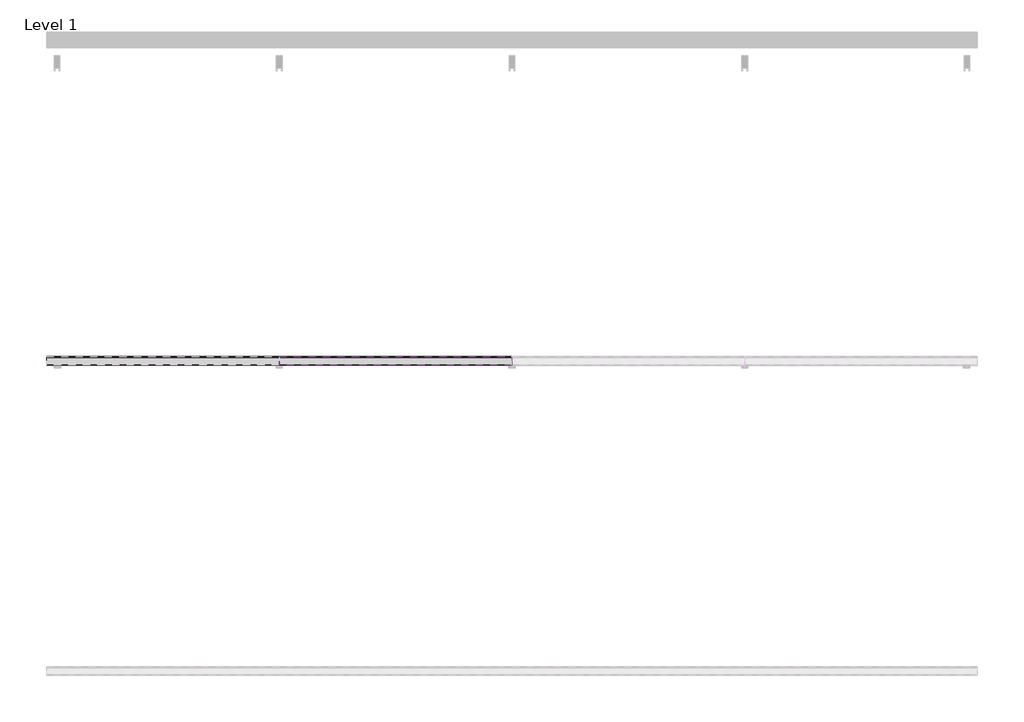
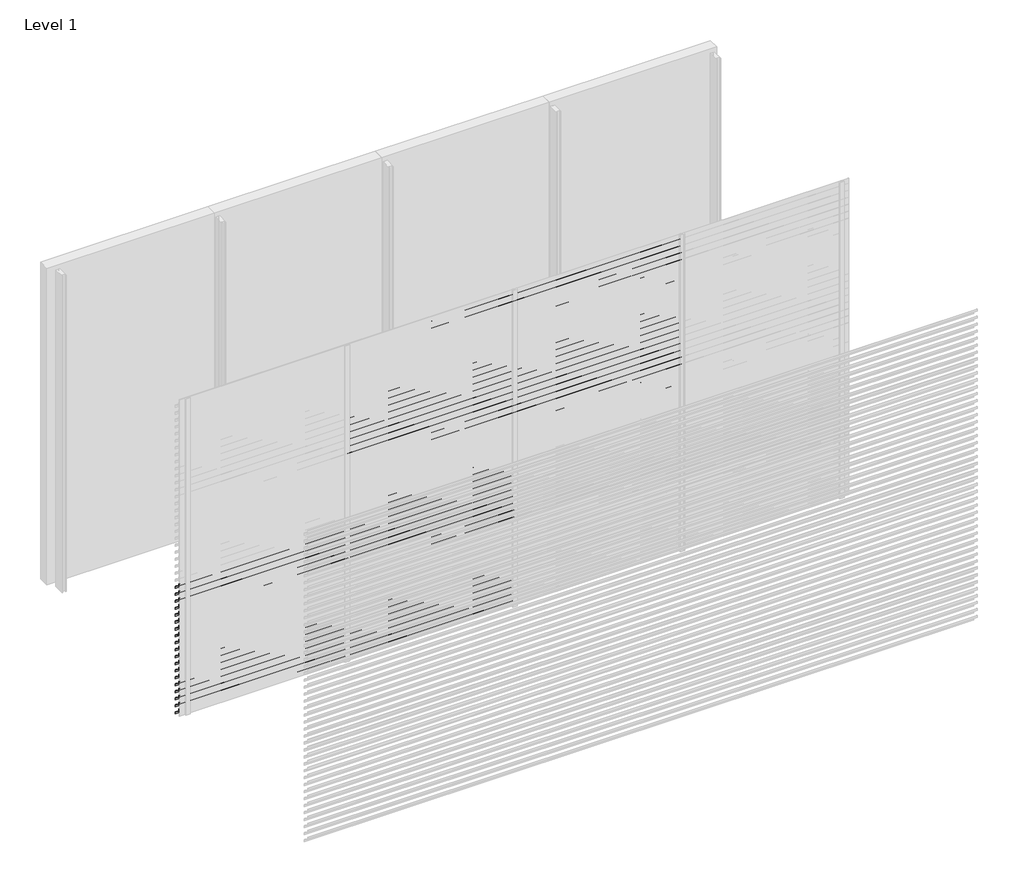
# One storey, part 14 of 25: 87 proxies.
"""IFC4 building model written with IfcOpenShell, lengths in millimetres."""

from ifc_helpers import new_model, si_unit, frame, origin, place, context, project, spatial, polyline, outline, extrude, element, save

model = new_model("IFC4")

# Units and contexts
model_context = context("Model", 3, world=origin())
ifc_project = project(units=[si_unit("LENGTHUNIT", "METRE", prefix="MILLI")], contexts=[model_context])

# Site, building, storey
site = spatial("IfcSite", under=ifc_project)
building = spatial("IfcBuilding", under=site)
storey = spatial("IfcBuildingStorey", under=building, Name="Level 1", Elevation=0.0)

# Proxies
placement = place(None, origin())
element("IfcBuildingElementProxy", 1, Name="Wall Sweeps", at=placement, inside=storey, context=model_context, shape_type="SweptSolid", body=[
    extrude(outline(polyline([(-23943.0, 1197.5), (-23943.0, 1177.5), (-23944.25, 1178.2216933), (-23944.25, 1196.7872415), (-23998.0, 1234.3158044), (-23998.0, 1254.0), (-23996.75, 1254.0), (-23996.75, 1235.0285629), (-23943.0, 1197.5)])), frame((0.0, 0.0, 0.0), z_axis=(1.0, 0.0, 0.0), x_axis=(0.0, 1.0, 0.0)), (0.0, 0.0, 1.0), 1500.0),
])
element("IfcBuildingElementProxy", 2, Name="Wall Sweeps", at=placement, inside=storey, context=model_context, shape_type="SweptSolid", body=[
    extrude(outline(polyline([(-23943.0, 1131.5), (-23943.0, 1111.5), (-23944.25, 1112.2216933), (-23944.25, 1130.7872415), (-23998.0, 1168.3158044), (-23998.0, 1188.0), (-23996.75, 1188.0), (-23996.75, 1169.0285629), (-23943.0, 1131.5)])), frame((0.0, 0.0, 0.0), z_axis=(1.0, 0.0, 0.0), x_axis=(0.0, 1.0, 0.0)), (0.0, 0.0, 1.0), 1500.0),
])
element("IfcBuildingElementProxy", 3, Name="Wall Sweeps", at=placement, inside=storey, context=model_context, shape_type="SweptSolid", body=[
    extrude(outline(polyline([(-23943.0, 1065.5), (-23943.0, 1045.5), (-23944.25, 1046.2216933), (-23944.25, 1064.7872415), (-23998.0, 1102.3158044), (-23998.0, 1122.0), (-23996.75, 1122.0), (-23996.75, 1103.0285629), (-23943.0, 1065.5)])), frame((0.0, 0.0, 0.0), z_axis=(1.0, 0.0, 0.0), x_axis=(0.0, 1.0, 0.0)), (0.0, 0.0, 1.0), 1500.0),
])
element("IfcBuildingElementProxy", 4, Name="Wall Sweeps", at=placement, inside=storey, context=model_context, shape_type="SweptSolid", body=[
    extrude(outline(polyline([(-23943.0, 999.5), (-23943.0, 979.5), (-23944.25, 980.2216933), (-23944.25, 998.7872415), (-23998.0, 1036.3158044), (-23998.0, 1056.0), (-23996.75, 1056.0), (-23996.75, 1037.0285629), (-23943.0, 999.5)])), frame((0.0, 0.0, 0.0), z_axis=(1.0, 0.0, 0.0), x_axis=(0.0, 1.0, 0.0)), (0.0, 0.0, 1.0), 1500.0),
])
element("IfcBuildingElementProxy", 5, Name="Wall Sweeps", at=placement, inside=storey, context=model_context, shape_type="SweptSolid", body=[
    extrude(outline(polyline([(-23943.0, 933.5), (-23943.0, 913.5), (-23944.25, 914.2216933), (-23944.25, 932.7872415), (-23998.0, 970.3158044), (-23998.0, 990.0), (-23996.75, 990.0), (-23996.75, 971.0285629), (-23943.0, 933.5)])), frame((0.0, 0.0, 0.0), z_axis=(1.0, 0.0, 0.0), x_axis=(0.0, 1.0, 0.0)), (0.0, 0.0, 1.0), 1500.0),
])
element("IfcBuildingElementProxy", 6, Name="Wall Sweeps", at=placement, inside=storey, context=model_context, shape_type="SweptSolid", body=[
    extrude(outline(polyline([(-23943.0, 867.5), (-23943.0, 847.5), (-23944.25, 848.2216933), (-23944.25, 866.7872415), (-23998.0, 904.3158044), (-23998.0, 924.0), (-23996.75, 924.0), (-23996.75, 905.0285629), (-23943.0, 867.5)])), frame((0.0, 0.0, 0.0), z_axis=(1.0, 0.0, 0.0), x_axis=(0.0, 1.0, 0.0)), (0.0, 0.0, 1.0), 1500.0),
])
element("IfcBuildingElementProxy", 7, Name="Wall Sweeps", at=placement, inside=storey, context=model_context, shape_type="SweptSolid", body=[
    extrude(outline(polyline([(-23943.0, 801.5), (-23943.0, 781.5), (-23944.25, 782.2216933), (-23944.25, 800.7872415), (-23998.0, 838.3158044), (-23998.0, 858.0), (-23996.75, 858.0), (-23996.75, 839.0285629), (-23943.0, 801.5)])), frame((0.0, 0.0, 0.0), z_axis=(1.0, 0.0, 0.0), x_axis=(0.0, 1.0, 0.0)), (0.0, 0.0, 1.0), 1500.0),
])
element("IfcBuildingElementProxy", 8, Name="Wall Sweeps", at=placement, inside=storey, context=model_context, shape_type="SweptSolid", body=[
    extrude(outline(polyline([(-23943.0, 735.5), (-23943.0, 715.5), (-23944.25, 716.2216933), (-23944.25, 734.7872415), (-23998.0, 772.3158044), (-23998.0, 792.0), (-23996.75, 792.0), (-23996.75, 773.0285629), (-23943.0, 735.5)])), frame((0.0, 0.0, 0.0), z_axis=(1.0, 0.0, 0.0), x_axis=(0.0, 1.0, 0.0)), (0.0, 0.0, 1.0), 1500.0),
])
element("IfcBuildingElementProxy", 9, Name="Wall Sweeps", at=placement, inside=storey, context=model_context, shape_type="SweptSolid", body=[
    extrude(outline(polyline([(-23943.0, 669.5), (-23943.0, 649.5), (-23944.25, 650.2216933), (-23944.25, 668.7872415), (-23998.0, 706.3158044), (-23998.0, 726.0), (-23996.75, 726.0), (-23996.75, 707.0285629), (-23943.0, 669.5)])), frame((0.0, 0.0, 0.0), z_axis=(1.0, 0.0, 0.0), x_axis=(0.0, 1.0, 0.0)), (0.0, 0.0, 1.0), 1500.0),
])
element("IfcBuildingElementProxy", 10, Name="Wall Sweeps", at=placement, inside=storey, context=model_context, shape_type="SweptSolid", body=[
    extrude(outline(polyline([(-23943.0, 603.5), (-23943.0, 583.5), (-23944.25, 584.2216933), (-23944.25, 602.7872415), (-23998.0, 640.3158044), (-23998.0, 660.0), (-23996.75, 660.0), (-23996.75, 641.0285629), (-23943.0, 603.5)])), frame((0.0, 0.0, 0.0), z_axis=(1.0, 0.0, 0.0), x_axis=(0.0, 1.0, 0.0)), (0.0, 0.0, 1.0), 1500.0),
])
element("IfcBuildingElementProxy", 11, Name="Wall Sweeps", at=placement, inside=storey, context=model_context, shape_type="SweptSolid", body=[
    extrude(outline(polyline([(-23943.0, 537.5), (-23943.0, 517.5), (-23944.25, 518.2216933), (-23944.25, 536.7872415), (-23998.0, 574.3158044), (-23998.0, 594.0), (-23996.75, 594.0), (-23996.75, 575.0285629), (-23943.0, 537.5)])), frame((0.0, 0.0, 0.0), z_axis=(1.0, 0.0, 0.0), x_axis=(0.0, 1.0, 0.0)), (0.0, 0.0, 1.0), 1500.0),
])
element("IfcBuildingElementProxy", 12, Name="Wall Sweeps", at=placement, inside=storey, context=model_context, shape_type="SweptSolid", body=[
    extrude(outline(polyline([(-23943.0, 471.5), (-23943.0, 451.5), (-23944.25, 452.2216933), (-23944.25, 470.7872415), (-23998.0, 508.3158044), (-23998.0, 528.0), (-23996.75, 528.0), (-23996.75, 509.0285629), (-23943.0, 471.5)])), frame((0.0, 0.0, 0.0), z_axis=(1.0, 0.0, 0.0), x_axis=(0.0, 1.0, 0.0)), (0.0, 0.0, 1.0), 1500.0),
])
element("IfcBuildingElementProxy", 13, Name="Wall Sweeps", at=placement, inside=storey, context=model_context, shape_type="SweptSolid", body=[
    extrude(outline(polyline([(-23943.0, 405.5), (-23943.0, 385.5), (-23944.25, 386.2216933), (-23944.25, 404.7872415), (-23998.0, 442.3158044), (-23998.0, 462.0), (-23996.75, 462.0), (-23996.75, 443.0285629), (-23943.0, 405.5)])), frame((0.0, 0.0, 0.0), z_axis=(1.0, 0.0, 0.0), x_axis=(0.0, 1.0, 0.0)), (0.0, 0.0, 1.0), 1500.0),
])
element("IfcBuildingElementProxy", 14, Name="Wall Sweeps", at=placement, inside=storey, context=model_context, shape_type="SweptSolid", body=[
    extrude(outline(polyline([(-23943.0, 339.5), (-23943.0, 319.5), (-23944.25, 320.2216933), (-23944.25, 338.7872415), (-23998.0, 376.3158044), (-23998.0, 396.0), (-23996.75, 396.0), (-23996.75, 377.0285629), (-23943.0, 339.5)])), frame((0.0, 0.0, 0.0), z_axis=(1.0, 0.0, 0.0), x_axis=(0.0, 1.0, 0.0)), (0.0, 0.0, 1.0), 1500.0),
])
element("IfcBuildingElementProxy", 15, Name="Wall Sweeps", at=placement, inside=storey, context=model_context, shape_type="SweptSolid", body=[
    extrude(outline(polyline([(-23943.0, 273.5), (-23943.0, 253.5), (-23944.25, 254.2216933), (-23944.25, 272.7872415), (-23998.0, 310.3158044), (-23998.0, 330.0), (-23996.75, 330.0), (-23996.75, 311.0285629), (-23943.0, 273.5)])), frame((0.0, 0.0, 0.0), z_axis=(1.0, 0.0, 0.0), x_axis=(0.0, 1.0, 0.0)), (0.0, 0.0, 1.0), 1500.0),
])
element("IfcBuildingElementProxy", 16, Name="Wall Sweeps", at=placement, inside=storey, context=model_context, shape_type="SweptSolid", body=[
    extrude(outline(polyline([(-23943.0, 207.5), (-23943.0, 187.5), (-23944.25, 188.2216933), (-23944.25, 206.7872415), (-23998.0, 244.3158044), (-23998.0, 264.0), (-23996.75, 264.0), (-23996.75, 245.0285629), (-23943.0, 207.5)])), frame((0.0, 0.0, 0.0), z_axis=(1.0, 0.0, 0.0), x_axis=(0.0, 1.0, 0.0)), (0.0, 0.0, 1.0), 1500.0),
])
element("IfcBuildingElementProxy", 17, Name="Wall Sweeps", at=placement, inside=storey, context=model_context, shape_type="SweptSolid", body=[
    extrude(outline(polyline([(-23943.0, 141.5), (-23943.0, 121.5), (-23944.25, 122.2216933), (-23944.25, 140.7872415), (-23998.0, 178.3158044), (-23998.0, 198.0), (-23996.75, 198.0), (-23996.75, 179.0285629), (-23943.0, 141.5)])), frame((0.0, 0.0, 0.0), z_axis=(1.0, 0.0, 0.0), x_axis=(0.0, 1.0, 0.0)), (0.0, 0.0, 1.0), 1500.0),
])
element("IfcBuildingElementProxy", 18, Name="Wall Sweeps", at=placement, inside=storey, context=model_context, shape_type="SweptSolid", body=[
    extrude(outline(polyline([(-23943.0, 75.5), (-23943.0, 55.5), (-23944.25, 56.2216933), (-23944.25, 74.7872415), (-23998.0, 112.3158044), (-23998.0, 132.0), (-23996.75, 132.0), (-23996.75, 113.0285629), (-23943.0, 75.5)])), frame((0.0, 0.0, 0.0), z_axis=(1.0, 0.0, 0.0), x_axis=(0.0, 1.0, 0.0)), (0.0, 0.0, 1.0), 1500.0),
])
element("IfcBuildingElementProxy", 19, Name="Wall Sweeps", at=placement, inside=storey, context=model_context, shape_type="SweptSolid", body=[
    extrude(outline(polyline([(-23943.0, 9.5), (-23943.0, -10.5), (-23944.25, -9.7783067), (-23944.25, 8.7872415), (-23998.0, 46.3158044), (-23998.0, 66.0), (-23996.75, 66.0), (-23996.75, 47.0285629), (-23943.0, 9.5)])), frame((0.0, 0.0, 0.0), z_axis=(1.0, 0.0, 0.0), x_axis=(0.0, 1.0, 0.0)), (0.0, 0.0, 1.0), 1500.0),
])
element("IfcBuildingElementProxy", 20, Name="Wall Sweeps", at=placement, inside=storey, context=model_context, shape_type="SweptSolid", body=[
    extrude(outline(polyline([(-23943.0, 2913.5), (-23943.0, 2893.5), (-23944.25, 2894.2216933), (-23944.25, 2912.7872415), (-23998.0, 2950.3158044), (-23998.0, 2970.0), (-23996.75, 2970.0), (-23996.75, 2951.0285629), (-23943.0, 2913.5)])), frame((1500.0, 0.0, 0.0), z_axis=(1.0, 0.0, 0.0), x_axis=(0.0, 1.0, 0.0)), (0.0, 0.0, 1.0), 1500.0),
])
element("IfcBuildingElementProxy", 21, Name="Wall Sweeps", at=placement, inside=storey, context=model_context, shape_type="SweptSolid", body=[
    extrude(outline(polyline([(-23943.0, 2847.5), (-23943.0, 2827.5), (-23944.25, 2828.2216933), (-23944.25, 2846.7872415), (-23998.0, 2884.3158044), (-23998.0, 2904.0), (-23996.75, 2904.0), (-23996.75, 2885.0285629), (-23943.0, 2847.5)])), frame((1500.0, 0.0, 0.0), z_axis=(1.0, 0.0, 0.0), x_axis=(0.0, 1.0, 0.0)), (0.0, 0.0, 1.0), 1500.0),
])
element("IfcBuildingElementProxy", 22, Name="Wall Sweeps", at=placement, inside=storey, context=model_context, shape_type="SweptSolid", body=[
    extrude(outline(polyline([(-23943.0, 2781.5), (-23943.0, 2761.5), (-23944.25, 2762.2216933), (-23944.25, 2780.7872415), (-23998.0, 2818.3158044), (-23998.0, 2838.0), (-23996.75, 2838.0), (-23996.75, 2819.0285629), (-23943.0, 2781.5)])), frame((1500.0, 0.0, 0.0), z_axis=(1.0, 0.0, 0.0), x_axis=(0.0, 1.0, 0.0)), (0.0, 0.0, 1.0), 1500.0),
])
element("IfcBuildingElementProxy", 23, Name="Wall Sweeps", at=placement, inside=storey, context=model_context, shape_type="SweptSolid", body=[
    extrude(outline(polyline([(-23943.0, 2715.5), (-23943.0, 2695.5), (-23944.25, 2696.2216933), (-23944.25, 2714.7872415), (-23998.0, 2752.3158044), (-23998.0, 2772.0), (-23996.75, 2772.0), (-23996.75, 2753.0285629), (-23943.0, 2715.5)])), frame((1500.0, 0.0, 0.0), z_axis=(1.0, 0.0, 0.0), x_axis=(0.0, 1.0, 0.0)), (0.0, 0.0, 1.0), 1500.0),
])
element("IfcBuildingElementProxy", 24, Name="Wall Sweeps", at=placement, inside=storey, context=model_context, shape_type="SweptSolid", body=[
    extrude(outline(polyline([(-23943.0, 2649.5), (-23943.0, 2629.5), (-23944.25, 2630.2216933), (-23944.25, 2648.7872415), (-23998.0, 2686.3158044), (-23998.0, 2706.0), (-23996.75, 2706.0), (-23996.75, 2687.0285629), (-23943.0, 2649.5)])), frame((1500.0, 0.0, 0.0), z_axis=(1.0, 0.0, 0.0), x_axis=(0.0, 1.0, 0.0)), (0.0, 0.0, 1.0), 1500.0),
])
element("IfcBuildingElementProxy", 25, Name="Wall Sweeps", at=placement, inside=storey, context=model_context, shape_type="SweptSolid", body=[
    extrude(outline(polyline([(-23943.0, 2583.5), (-23943.0, 2563.5), (-23944.25, 2564.2216933), (-23944.25, 2582.7872415), (-23998.0, 2620.3158044), (-23998.0, 2640.0), (-23996.75, 2640.0), (-23996.75, 2621.0285629), (-23943.0, 2583.5)])), frame((1500.0, 0.0, 0.0), z_axis=(1.0, 0.0, 0.0), x_axis=(0.0, 1.0, 0.0)), (0.0, 0.0, 1.0), 1500.0),
])
element("IfcBuildingElementProxy", 26, Name="Wall Sweeps", at=placement, inside=storey, context=model_context, shape_type="SweptSolid", body=[
    extrude(outline(polyline([(-23943.0, 2517.5), (-23943.0, 2497.5), (-23944.25, 2498.2216933), (-23944.25, 2516.7872415), (-23998.0, 2554.3158044), (-23998.0, 2574.0), (-23996.75, 2574.0), (-23996.75, 2555.0285629), (-23943.0, 2517.5)])), frame((1500.0, 0.0, 0.0), z_axis=(1.0, 0.0, 0.0), x_axis=(0.0, 1.0, 0.0)), (0.0, 0.0, 1.0), 1500.0),
])
element("IfcBuildingElementProxy", 27, Name="Wall Sweeps", at=placement, inside=storey, context=model_context, shape_type="SweptSolid", body=[
    extrude(outline(polyline([(-23943.0, 2451.5), (-23943.0, 2431.5), (-23944.25, 2432.2216933), (-23944.25, 2450.7872415), (-23998.0, 2488.3158044), (-23998.0, 2508.0), (-23996.75, 2508.0), (-23996.75, 2489.0285629), (-23943.0, 2451.5)])), frame((1500.0, 0.0, 0.0), z_axis=(1.0, 0.0, 0.0), x_axis=(0.0, 1.0, 0.0)), (0.0, 0.0, 1.0), 1500.0),
])
element("IfcBuildingElementProxy", 28, Name="Wall Sweeps", at=placement, inside=storey, context=model_context, shape_type="SweptSolid", body=[
    extrude(outline(polyline([(-23943.0, 2385.5), (-23943.0, 2365.5), (-23944.25, 2366.2216933), (-23944.25, 2384.7872415), (-23998.0, 2422.3158044), (-23998.0, 2442.0), (-23996.75, 2442.0), (-23996.75, 2423.0285629), (-23943.0, 2385.5)])), frame((1500.0, 0.0, 0.0), z_axis=(1.0, 0.0, 0.0), x_axis=(0.0, 1.0, 0.0)), (0.0, 0.0, 1.0), 1500.0),
])
element("IfcBuildingElementProxy", 29, Name="Wall Sweeps", at=placement, inside=storey, context=model_context, shape_type="SweptSolid", body=[
    extrude(outline(polyline([(-23943.0, 2319.5), (-23943.0, 2299.5), (-23944.25, 2300.2216933), (-23944.25, 2318.7872415), (-23998.0, 2356.3158044), (-23998.0, 2376.0), (-23996.75, 2376.0), (-23996.75, 2357.0285629), (-23943.0, 2319.5)])), frame((1500.0, 0.0, 0.0), z_axis=(1.0, 0.0, 0.0), x_axis=(0.0, 1.0, 0.0)), (0.0, 0.0, 1.0), 1500.0),
])
element("IfcBuildingElementProxy", 30, Name="Wall Sweeps", at=placement, inside=storey, context=model_context, shape_type="SweptSolid", body=[
    extrude(outline(polyline([(-23943.0, 2253.5), (-23943.0, 2233.5), (-23944.25, 2234.2216933), (-23944.25, 2252.7872415), (-23998.0, 2290.3158044), (-23998.0, 2310.0), (-23996.75, 2310.0), (-23996.75, 2291.0285629), (-23943.0, 2253.5)])), frame((1500.0, 0.0, 0.0), z_axis=(1.0, 0.0, 0.0), x_axis=(0.0, 1.0, 0.0)), (0.0, 0.0, 1.0), 1500.0),
])
element("IfcBuildingElementProxy", 31, Name="Wall Sweeps", at=placement, inside=storey, context=model_context, shape_type="SweptSolid", body=[
    extrude(outline(polyline([(-23943.0, 2187.5), (-23943.0, 2167.5), (-23944.25, 2168.2216933), (-23944.25, 2186.7872415), (-23998.0, 2224.3158044), (-23998.0, 2244.0), (-23996.75, 2244.0), (-23996.75, 2225.0285629), (-23943.0, 2187.5)])), frame((1500.0, 0.0, 0.0), z_axis=(1.0, 0.0, 0.0), x_axis=(0.0, 1.0, 0.0)), (0.0, 0.0, 1.0), 1500.0),
])
element("IfcBuildingElementProxy", 32, Name="Wall Sweeps", at=placement, inside=storey, context=model_context, shape_type="SweptSolid", body=[
    extrude(outline(polyline([(-23943.0, 2121.5), (-23943.0, 2101.5), (-23944.25, 2102.2216933), (-23944.25, 2120.7872415), (-23998.0, 2158.3158044), (-23998.0, 2178.0), (-23996.75, 2178.0), (-23996.75, 2159.0285629), (-23943.0, 2121.5)])), frame((1500.0, 0.0, 0.0), z_axis=(1.0, 0.0, 0.0), x_axis=(0.0, 1.0, 0.0)), (0.0, 0.0, 1.0), 1500.0),
])
element("IfcBuildingElementProxy", 33, Name="Wall Sweeps", at=placement, inside=storey, context=model_context, shape_type="SweptSolid", body=[
    extrude(outline(polyline([(-23943.0, 2055.5), (-23943.0, 2035.5), (-23944.25, 2036.2216933), (-23944.25, 2054.7872415), (-23998.0, 2092.3158044), (-23998.0, 2112.0), (-23996.75, 2112.0), (-23996.75, 2093.0285629), (-23943.0, 2055.5)])), frame((1500.0, 0.0, 0.0), z_axis=(1.0, 0.0, 0.0), x_axis=(0.0, 1.0, 0.0)), (0.0, 0.0, 1.0), 1500.0),
])
element("IfcBuildingElementProxy", 34, Name="Wall Sweeps", at=placement, inside=storey, context=model_context, shape_type="SweptSolid", body=[
    extrude(outline(polyline([(-23943.0, 1989.5), (-23943.0, 1969.5), (-23944.25, 1970.2216933), (-23944.25, 1988.7872415), (-23998.0, 2026.3158044), (-23998.0, 2046.0), (-23996.75, 2046.0), (-23996.75, 2027.0285629), (-23943.0, 1989.5)])), frame((1500.0, 0.0, 0.0), z_axis=(1.0, 0.0, 0.0), x_axis=(0.0, 1.0, 0.0)), (0.0, 0.0, 1.0), 1500.0),
])
element("IfcBuildingElementProxy", 35, Name="Wall Sweeps", at=placement, inside=storey, context=model_context, shape_type="SweptSolid", body=[
    extrude(outline(polyline([(-23943.0, 1923.5), (-23943.0, 1903.5), (-23944.25, 1904.2216933), (-23944.25, 1922.7872415), (-23998.0, 1960.3158044), (-23998.0, 1980.0), (-23996.75, 1980.0), (-23996.75, 1961.0285629), (-23943.0, 1923.5)])), frame((1500.0, 0.0, 0.0), z_axis=(1.0, 0.0, 0.0), x_axis=(0.0, 1.0, 0.0)), (0.0, 0.0, 1.0), 1500.0),
])
element("IfcBuildingElementProxy", 36, Name="Wall Sweeps", at=placement, inside=storey, context=model_context, shape_type="SweptSolid", body=[
    extrude(outline(polyline([(-23943.0, 1857.5), (-23943.0, 1837.5), (-23944.25, 1838.2216933), (-23944.25, 1856.7872415), (-23998.0, 1894.3158044), (-23998.0, 1914.0), (-23996.75, 1914.0), (-23996.75, 1895.0285629), (-23943.0, 1857.5)])), frame((1500.0, 0.0, 0.0), z_axis=(1.0, 0.0, 0.0), x_axis=(0.0, 1.0, 0.0)), (0.0, 0.0, 1.0), 1500.0),
])
element("IfcBuildingElementProxy", 37, Name="Wall Sweeps", at=placement, inside=storey, context=model_context, shape_type="SweptSolid", body=[
    extrude(outline(polyline([(-23943.0, 1791.5), (-23943.0, 1771.5), (-23944.25, 1772.2216933), (-23944.25, 1790.7872415), (-23998.0, 1828.3158044), (-23998.0, 1848.0), (-23996.75, 1848.0), (-23996.75, 1829.0285629), (-23943.0, 1791.5)])), frame((1500.0, 0.0, 0.0), z_axis=(1.0, 0.0, 0.0), x_axis=(0.0, 1.0, 0.0)), (0.0, 0.0, 1.0), 1500.0),
])
element("IfcBuildingElementProxy", 38, Name="Wall Sweeps", at=placement, inside=storey, context=model_context, shape_type="SweptSolid", body=[
    extrude(outline(polyline([(-23943.0, 1725.5), (-23943.0, 1705.5), (-23944.25, 1706.2216933), (-23944.25, 1724.7872415), (-23998.0, 1762.3158044), (-23998.0, 1782.0), (-23996.75, 1782.0), (-23996.75, 1763.0285629), (-23943.0, 1725.5)])), frame((1500.0, 0.0, 0.0), z_axis=(1.0, 0.0, 0.0), x_axis=(0.0, 1.0, 0.0)), (0.0, 0.0, 1.0), 1500.0),
])
element("IfcBuildingElementProxy", 39, Name="Wall Sweeps", at=placement, inside=storey, context=model_context, shape_type="SweptSolid", body=[
    extrude(outline(polyline([(-23943.0, 1659.5), (-23943.0, 1639.5), (-23944.25, 1640.2216933), (-23944.25, 1658.7872415), (-23998.0, 1696.3158044), (-23998.0, 1716.0), (-23996.75, 1716.0), (-23996.75, 1697.0285629), (-23943.0, 1659.5)])), frame((1500.0, 0.0, 0.0), z_axis=(1.0, 0.0, 0.0), x_axis=(0.0, 1.0, 0.0)), (0.0, 0.0, 1.0), 1500.0),
])
element("IfcBuildingElementProxy", 40, Name="Wall Sweeps", at=placement, inside=storey, context=model_context, shape_type="SweptSolid", body=[
    extrude(outline(polyline([(-23943.0, 1593.5), (-23943.0, 1573.5), (-23944.25, 1574.2216933), (-23944.25, 1592.7872415), (-23998.0, 1630.3158044), (-23998.0, 1650.0), (-23996.75, 1650.0), (-23996.75, 1631.0285629), (-23943.0, 1593.5)])), frame((1500.0, 0.0, 0.0), z_axis=(1.0, 0.0, 0.0), x_axis=(0.0, 1.0, 0.0)), (0.0, 0.0, 1.0), 1500.0),
])
element("IfcBuildingElementProxy", 41, Name="Wall Sweeps", at=placement, inside=storey, context=model_context, shape_type="SweptSolid", body=[
    extrude(outline(polyline([(-23943.0, 1527.5), (-23943.0, 1507.5), (-23944.25, 1508.2216933), (-23944.25, 1526.7872415), (-23998.0, 1564.3158044), (-23998.0, 1584.0), (-23996.75, 1584.0), (-23996.75, 1565.0285629), (-23943.0, 1527.5)])), frame((1500.0, 0.0, 0.0), z_axis=(1.0, 0.0, 0.0), x_axis=(0.0, 1.0, 0.0)), (0.0, 0.0, 1.0), 1500.0),
])
element("IfcBuildingElementProxy", 42, Name="Wall Sweeps", at=placement, inside=storey, context=model_context, shape_type="SweptSolid", body=[
    extrude(outline(polyline([(-23943.0, 1461.5), (-23943.0, 1441.5), (-23944.25, 1442.2216933), (-23944.25, 1460.7872415), (-23998.0, 1498.3158044), (-23998.0, 1518.0), (-23996.75, 1518.0), (-23996.75, 1499.0285629), (-23943.0, 1461.5)])), frame((1500.0, 0.0, 0.0), z_axis=(1.0, 0.0, 0.0), x_axis=(0.0, 1.0, 0.0)), (0.0, 0.0, 1.0), 1500.0),
])
element("IfcBuildingElementProxy", 43, Name="Wall Sweeps", at=placement, inside=storey, context=model_context, shape_type="SweptSolid", body=[
    extrude(outline(polyline([(-23943.0, 1395.5), (-23943.0, 1375.5), (-23944.25, 1376.2216933), (-23944.25, 1394.7872415), (-23998.0, 1432.3158044), (-23998.0, 1452.0), (-23996.75, 1452.0), (-23996.75, 1433.0285629), (-23943.0, 1395.5)])), frame((1500.0, 0.0, 0.0), z_axis=(1.0, 0.0, 0.0), x_axis=(0.0, 1.0, 0.0)), (0.0, 0.0, 1.0), 1500.0),
])
element("IfcBuildingElementProxy", 44, Name="Wall Sweeps", at=placement, inside=storey, context=model_context, shape_type="SweptSolid", body=[
    extrude(outline(polyline([(-23943.0, 1329.5), (-23943.0, 1309.5), (-23944.25, 1310.2216933), (-23944.25, 1328.7872415), (-23998.0, 1366.3158044), (-23998.0, 1386.0), (-23996.75, 1386.0), (-23996.75, 1367.0285629), (-23943.0, 1329.5)])), frame((1500.0, 0.0, 0.0), z_axis=(1.0, 0.0, 0.0), x_axis=(0.0, 1.0, 0.0)), (0.0, 0.0, 1.0), 1500.0),
])
element("IfcBuildingElementProxy", 45, Name="Wall Sweeps", at=placement, inside=storey, context=model_context, shape_type="SweptSolid", body=[
    extrude(outline(polyline([(-23943.0, 1263.5), (-23943.0, 1243.5), (-23944.25, 1244.2216933), (-23944.25, 1262.7872415), (-23998.0, 1300.3158044), (-23998.0, 1320.0), (-23996.75, 1320.0), (-23996.75, 1301.0285629), (-23943.0, 1263.5)])), frame((1500.0, 0.0, 0.0), z_axis=(1.0, 0.0, 0.0), x_axis=(0.0, 1.0, 0.0)), (0.0, 0.0, 1.0), 1500.0),
])
element("IfcBuildingElementProxy", 46, Name="Wall Sweeps", at=placement, inside=storey, context=model_context, shape_type="SweptSolid", body=[
    extrude(outline(polyline([(-23943.0, 1197.5), (-23943.0, 1177.5), (-23944.25, 1178.2216933), (-23944.25, 1196.7872415), (-23998.0, 1234.3158044), (-23998.0, 1254.0), (-23996.75, 1254.0), (-23996.75, 1235.0285629), (-23943.0, 1197.5)])), frame((1500.0, 0.0, 0.0), z_axis=(1.0, 0.0, 0.0), x_axis=(0.0, 1.0, 0.0)), (0.0, 0.0, 1.0), 1500.0),
])
element("IfcBuildingElementProxy", 47, Name="Wall Sweeps", at=placement, inside=storey, context=model_context, shape_type="SweptSolid", body=[
    extrude(outline(polyline([(-23943.0, 1131.5), (-23943.0, 1111.5), (-23944.25, 1112.2216933), (-23944.25, 1130.7872415), (-23998.0, 1168.3158044), (-23998.0, 1188.0), (-23996.75, 1188.0), (-23996.75, 1169.0285629), (-23943.0, 1131.5)])), frame((1500.0, 0.0, 0.0), z_axis=(1.0, 0.0, 0.0), x_axis=(0.0, 1.0, 0.0)), (0.0, 0.0, 1.0), 1500.0),
])
element("IfcBuildingElementProxy", 48, Name="Wall Sweeps", at=placement, inside=storey, context=model_context, shape_type="SweptSolid", body=[
    extrude(outline(polyline([(-23943.0, 1065.5), (-23943.0, 1045.5), (-23944.25, 1046.2216933), (-23944.25, 1064.7872415), (-23998.0, 1102.3158044), (-23998.0, 1122.0), (-23996.75, 1122.0), (-23996.75, 1103.0285629), (-23943.0, 1065.5)])), frame((1500.0, 0.0, 0.0), z_axis=(1.0, 0.0, 0.0), x_axis=(0.0, 1.0, 0.0)), (0.0, 0.0, 1.0), 1500.0),
])
element("IfcBuildingElementProxy", 49, Name="Wall Sweeps", at=placement, inside=storey, context=model_context, shape_type="SweptSolid", body=[
    extrude(outline(polyline([(-23943.0, 999.5), (-23943.0, 979.5), (-23944.25, 980.2216933), (-23944.25, 998.7872415), (-23998.0, 1036.3158044), (-23998.0, 1056.0), (-23996.75, 1056.0), (-23996.75, 1037.0285629), (-23943.0, 999.5)])), frame((1500.0, 0.0, 0.0), z_axis=(1.0, 0.0, 0.0), x_axis=(0.0, 1.0, 0.0)), (0.0, 0.0, 1.0), 1500.0),
])
element("IfcBuildingElementProxy", 50, Name="Wall Sweeps", at=placement, inside=storey, context=model_context, shape_type="SweptSolid", body=[
    extrude(outline(polyline([(-23943.0, 933.5), (-23943.0, 913.5), (-23944.25, 914.2216933), (-23944.25, 932.7872415), (-23998.0, 970.3158044), (-23998.0, 990.0), (-23996.75, 990.0), (-23996.75, 971.0285629), (-23943.0, 933.5)])), frame((1500.0, 0.0, 0.0), z_axis=(1.0, 0.0, 0.0), x_axis=(0.0, 1.0, 0.0)), (0.0, 0.0, 1.0), 1500.0),
])
element("IfcBuildingElementProxy", 51, Name="Wall Sweeps", at=placement, inside=storey, context=model_context, shape_type="SweptSolid", body=[
    extrude(outline(polyline([(-23943.0, 867.5), (-23943.0, 847.5), (-23944.25, 848.2216933), (-23944.25, 866.7872415), (-23998.0, 904.3158044), (-23998.0, 924.0), (-23996.75, 924.0), (-23996.75, 905.0285629), (-23943.0, 867.5)])), frame((1500.0, 0.0, 0.0), z_axis=(1.0, 0.0, 0.0), x_axis=(0.0, 1.0, 0.0)), (0.0, 0.0, 1.0), 1500.0),
])
element("IfcBuildingElementProxy", 52, Name="Wall Sweeps", at=placement, inside=storey, context=model_context, shape_type="SweptSolid", body=[
    extrude(outline(polyline([(-23943.0, 801.5), (-23943.0, 781.5), (-23944.25, 782.2216933), (-23944.25, 800.7872415), (-23998.0, 838.3158044), (-23998.0, 858.0), (-23996.75, 858.0), (-23996.75, 839.0285629), (-23943.0, 801.5)])), frame((1500.0, 0.0, 0.0), z_axis=(1.0, 0.0, 0.0), x_axis=(0.0, 1.0, 0.0)), (0.0, 0.0, 1.0), 1500.0),
])
element("IfcBuildingElementProxy", 53, Name="Wall Sweeps", at=placement, inside=storey, context=model_context, shape_type="SweptSolid", body=[
    extrude(outline(polyline([(-23943.0, 735.5), (-23943.0, 715.5), (-23944.25, 716.2216933), (-23944.25, 734.7872415), (-23998.0, 772.3158044), (-23998.0, 792.0), (-23996.75, 792.0), (-23996.75, 773.0285629), (-23943.0, 735.5)])), frame((1500.0, 0.0, 0.0), z_axis=(1.0, 0.0, 0.0), x_axis=(0.0, 1.0, 0.0)), (0.0, 0.0, 1.0), 1500.0),
])
element("IfcBuildingElementProxy", 54, Name="Wall Sweeps", at=placement, inside=storey, context=model_context, shape_type="SweptSolid", body=[
    extrude(outline(polyline([(-23943.0, 669.5), (-23943.0, 649.5), (-23944.25, 650.2216933), (-23944.25, 668.7872415), (-23998.0, 706.3158044), (-23998.0, 726.0), (-23996.75, 726.0), (-23996.75, 707.0285629), (-23943.0, 669.5)])), frame((1500.0, 0.0, 0.0), z_axis=(1.0, 0.0, 0.0), x_axis=(0.0, 1.0, 0.0)), (0.0, 0.0, 1.0), 1500.0),
])
element("IfcBuildingElementProxy", 55, Name="Wall Sweeps", at=placement, inside=storey, context=model_context, shape_type="SweptSolid", body=[
    extrude(outline(polyline([(-23943.0, 603.5), (-23943.0, 583.5), (-23944.25, 584.2216933), (-23944.25, 602.7872415), (-23998.0, 640.3158044), (-23998.0, 660.0), (-23996.75, 660.0), (-23996.75, 641.0285629), (-23943.0, 603.5)])), frame((1500.0, 0.0, 0.0), z_axis=(1.0, 0.0, 0.0), x_axis=(0.0, 1.0, 0.0)), (0.0, 0.0, 1.0), 1500.0),
])
element("IfcBuildingElementProxy", 56, Name="Wall Sweeps", at=placement, inside=storey, context=model_context, shape_type="SweptSolid", body=[
    extrude(outline(polyline([(-23943.0, 537.5), (-23943.0, 517.5), (-23944.25, 518.2216933), (-23944.25, 536.7872415), (-23998.0, 574.3158044), (-23998.0, 594.0), (-23996.75, 594.0), (-23996.75, 575.0285629), (-23943.0, 537.5)])), frame((1500.0, 0.0, 0.0), z_axis=(1.0, 0.0, 0.0), x_axis=(0.0, 1.0, 0.0)), (0.0, 0.0, 1.0), 1500.0),
])
element("IfcBuildingElementProxy", 57, Name="Wall Sweeps", at=placement, inside=storey, context=model_context, shape_type="SweptSolid", body=[
    extrude(outline(polyline([(-23943.0, 471.5), (-23943.0, 451.5), (-23944.25, 452.2216933), (-23944.25, 470.7872415), (-23998.0, 508.3158044), (-23998.0, 528.0), (-23996.75, 528.0), (-23996.75, 509.0285629), (-23943.0, 471.5)])), frame((1500.0, 0.0, 0.0), z_axis=(1.0, 0.0, 0.0), x_axis=(0.0, 1.0, 0.0)), (0.0, 0.0, 1.0), 1500.0),
])
element("IfcBuildingElementProxy", 58, Name="Wall Sweeps", at=placement, inside=storey, context=model_context, shape_type="SweptSolid", body=[
    extrude(outline(polyline([(-23943.0, 405.5), (-23943.0, 385.5), (-23944.25, 386.2216933), (-23944.25, 404.7872415), (-23998.0, 442.3158044), (-23998.0, 462.0), (-23996.75, 462.0), (-23996.75, 443.0285629), (-23943.0, 405.5)])), frame((1500.0, 0.0, 0.0), z_axis=(1.0, 0.0, 0.0), x_axis=(0.0, 1.0, 0.0)), (0.0, 0.0, 1.0), 1500.0),
])
element("IfcBuildingElementProxy", 59, Name="Wall Sweeps", at=placement, inside=storey, context=model_context, shape_type="SweptSolid", body=[
    extrude(outline(polyline([(-23943.0, 339.5), (-23943.0, 319.5), (-23944.25, 320.2216933), (-23944.25, 338.7872415), (-23998.0, 376.3158044), (-23998.0, 396.0), (-23996.75, 396.0), (-23996.75, 377.0285629), (-23943.0, 339.5)])), frame((1500.0, 0.0, 0.0), z_axis=(1.0, 0.0, 0.0), x_axis=(0.0, 1.0, 0.0)), (0.0, 0.0, 1.0), 1500.0),
])
element("IfcBuildingElementProxy", 60, Name="Wall Sweeps", at=placement, inside=storey, context=model_context, shape_type="SweptSolid", body=[
    extrude(outline(polyline([(-23943.0, 273.5), (-23943.0, 253.5), (-23944.25, 254.2216933), (-23944.25, 272.7872415), (-23998.0, 310.3158044), (-23998.0, 330.0), (-23996.75, 330.0), (-23996.75, 311.0285629), (-23943.0, 273.5)])), frame((1500.0, 0.0, 0.0), z_axis=(1.0, 0.0, 0.0), x_axis=(0.0, 1.0, 0.0)), (0.0, 0.0, 1.0), 1500.0),
])
element("IfcBuildingElementProxy", 61, Name="Wall Sweeps", at=placement, inside=storey, context=model_context, shape_type="SweptSolid", body=[
    extrude(outline(polyline([(-23943.0, 207.5), (-23943.0, 187.5), (-23944.25, 188.2216933), (-23944.25, 206.7872415), (-23998.0, 244.3158044), (-23998.0, 264.0), (-23996.75, 264.0), (-23996.75, 245.0285629), (-23943.0, 207.5)])), frame((1500.0, 0.0, 0.0), z_axis=(1.0, 0.0, 0.0), x_axis=(0.0, 1.0, 0.0)), (0.0, 0.0, 1.0), 1500.0),
])
element("IfcBuildingElementProxy", 62, Name="Wall Sweeps", at=placement, inside=storey, context=model_context, shape_type="SweptSolid", body=[
    extrude(outline(polyline([(-23943.0, 141.5), (-23943.0, 121.5), (-23944.25, 122.2216933), (-23944.25, 140.7872415), (-23998.0, 178.3158044), (-23998.0, 198.0), (-23996.75, 198.0), (-23996.75, 179.0285629), (-23943.0, 141.5)])), frame((1500.0, 0.0, 0.0), z_axis=(1.0, 0.0, 0.0), x_axis=(0.0, 1.0, 0.0)), (0.0, 0.0, 1.0), 1500.0),
])
element("IfcBuildingElementProxy", 63, Name="Wall Sweeps", at=placement, inside=storey, context=model_context, shape_type="SweptSolid", body=[
    extrude(outline(polyline([(-23943.0, 75.5), (-23943.0, 55.5), (-23944.25, 56.2216933), (-23944.25, 74.7872415), (-23998.0, 112.3158044), (-23998.0, 132.0), (-23996.75, 132.0), (-23996.75, 113.0285629), (-23943.0, 75.5)])), frame((1500.0, 0.0, 0.0), z_axis=(1.0, 0.0, 0.0), x_axis=(0.0, 1.0, 0.0)), (0.0, 0.0, 1.0), 1500.0),
])
element("IfcBuildingElementProxy", 64, Name="Wall Sweeps", at=placement, inside=storey, context=model_context, shape_type="SweptSolid", body=[
    extrude(outline(polyline([(-23943.0, 9.5), (-23943.0, -10.5), (-23944.25, -9.7783067), (-23944.25, 8.7872415), (-23998.0, 46.3158044), (-23998.0, 66.0), (-23996.75, 66.0), (-23996.75, 47.0285629), (-23943.0, 9.5)])), frame((1500.0, 0.0, 0.0), z_axis=(1.0, 0.0, 0.0), x_axis=(0.0, 1.0, 0.0)), (0.0, 0.0, 1.0), 1500.0),
])
element("IfcBuildingElementProxy", 65, Name="Wall Sweeps", at=placement, inside=storey, context=model_context, shape_type="SweptSolid", body=[
    extrude(outline(polyline([(-23943.0, 2913.5), (-23943.0, 2893.5), (-23944.25, 2894.2216933), (-23944.25, 2912.7872415), (-23998.0, 2950.3158044), (-23998.0, 2970.0), (-23996.75, 2970.0), (-23996.75, 2951.0285629), (-23943.0, 2913.5)])), frame((3000.0, 0.0, 0.0), z_axis=(1.0, 0.0, 0.0), x_axis=(0.0, 1.0, 0.0)), (0.0, 0.0, 1.0), 1500.0),
])
element("IfcBuildingElementProxy", 66, Name="Wall Sweeps", at=placement, inside=storey, context=model_context, shape_type="SweptSolid", body=[
    extrude(outline(polyline([(-23943.0, 2847.5), (-23943.0, 2827.5), (-23944.25, 2828.2216933), (-23944.25, 2846.7872415), (-23998.0, 2884.3158044), (-23998.0, 2904.0), (-23996.75, 2904.0), (-23996.75, 2885.0285629), (-23943.0, 2847.5)])), frame((3000.0, 0.0, 0.0), z_axis=(1.0, 0.0, 0.0), x_axis=(0.0, 1.0, 0.0)), (0.0, 0.0, 1.0), 1500.0),
])
element("IfcBuildingElementProxy", 67, Name="Wall Sweeps", at=placement, inside=storey, context=model_context, shape_type="SweptSolid", body=[
    extrude(outline(polyline([(-23943.0, 2781.5), (-23943.0, 2761.5), (-23944.25, 2762.2216933), (-23944.25, 2780.7872415), (-23998.0, 2818.3158044), (-23998.0, 2838.0), (-23996.75, 2838.0), (-23996.75, 2819.0285629), (-23943.0, 2781.5)])), frame((3000.0, 0.0, 0.0), z_axis=(1.0, 0.0, 0.0), x_axis=(0.0, 1.0, 0.0)), (0.0, 0.0, 1.0), 1500.0),
])
element("IfcBuildingElementProxy", 68, Name="Wall Sweeps", at=placement, inside=storey, context=model_context, shape_type="SweptSolid", body=[
    extrude(outline(polyline([(-23943.0, 2715.5), (-23943.0, 2695.5), (-23944.25, 2696.2216933), (-23944.25, 2714.7872415), (-23998.0, 2752.3158044), (-23998.0, 2772.0), (-23996.75, 2772.0), (-23996.75, 2753.0285629), (-23943.0, 2715.5)])), frame((3000.0, 0.0, 0.0), z_axis=(1.0, 0.0, 0.0), x_axis=(0.0, 1.0, 0.0)), (0.0, 0.0, 1.0), 1500.0),
])
element("IfcBuildingElementProxy", 69, Name="Wall Sweeps", at=placement, inside=storey, context=model_context, shape_type="SweptSolid", body=[
    extrude(outline(polyline([(-23943.0, 2649.5), (-23943.0, 2629.5), (-23944.25, 2630.2216933), (-23944.25, 2648.7872415), (-23998.0, 2686.3158044), (-23998.0, 2706.0), (-23996.75, 2706.0), (-23996.75, 2687.0285629), (-23943.0, 2649.5)])), frame((3000.0, 0.0, 0.0), z_axis=(1.0, 0.0, 0.0), x_axis=(0.0, 1.0, 0.0)), (0.0, 0.0, 1.0), 1500.0),
])
element("IfcBuildingElementProxy", 70, Name="Wall Sweeps", at=placement, inside=storey, context=model_context, shape_type="SweptSolid", body=[
    extrude(outline(polyline([(-23943.0, 2583.5), (-23943.0, 2563.5), (-23944.25, 2564.2216933), (-23944.25, 2582.7872415), (-23998.0, 2620.3158044), (-23998.0, 2640.0), (-23996.75, 2640.0), (-23996.75, 2621.0285629), (-23943.0, 2583.5)])), frame((3000.0, 0.0, 0.0), z_axis=(1.0, 0.0, 0.0), x_axis=(0.0, 1.0, 0.0)), (0.0, 0.0, 1.0), 1500.0),
])
element("IfcBuildingElementProxy", 71, Name="Wall Sweeps", at=placement, inside=storey, context=model_context, shape_type="SweptSolid", body=[
    extrude(outline(polyline([(-23943.0, 2517.5), (-23943.0, 2497.5), (-23944.25, 2498.2216933), (-23944.25, 2516.7872415), (-23998.0, 2554.3158044), (-23998.0, 2574.0), (-23996.75, 2574.0), (-23996.75, 2555.0285629), (-23943.0, 2517.5)])), frame((3000.0, 0.0, 0.0), z_axis=(1.0, 0.0, 0.0), x_axis=(0.0, 1.0, 0.0)), (0.0, 0.0, 1.0), 1500.0),
])
element("IfcBuildingElementProxy", 72, Name="Wall Sweeps", at=placement, inside=storey, context=model_context, shape_type="SweptSolid", body=[
    extrude(outline(polyline([(-23943.0, 2451.5), (-23943.0, 2431.5), (-23944.25, 2432.2216933), (-23944.25, 2450.7872415), (-23998.0, 2488.3158044), (-23998.0, 2508.0), (-23996.75, 2508.0), (-23996.75, 2489.0285629), (-23943.0, 2451.5)])), frame((3000.0, 0.0, 0.0), z_axis=(1.0, 0.0, 0.0), x_axis=(0.0, 1.0, 0.0)), (0.0, 0.0, 1.0), 1500.0),
])
element("IfcBuildingElementProxy", 73, Name="Wall Sweeps", at=placement, inside=storey, context=model_context, shape_type="SweptSolid", body=[
    extrude(outline(polyline([(-23943.0, 2385.5), (-23943.0, 2365.5), (-23944.25, 2366.2216933), (-23944.25, 2384.7872415), (-23998.0, 2422.3158044), (-23998.0, 2442.0), (-23996.75, 2442.0), (-23996.75, 2423.0285629), (-23943.0, 2385.5)])), frame((3000.0, 0.0, 0.0), z_axis=(1.0, 0.0, 0.0), x_axis=(0.0, 1.0, 0.0)), (0.0, 0.0, 1.0), 1500.0),
])
element("IfcBuildingElementProxy", 74, Name="Wall Sweeps", at=placement, inside=storey, context=model_context, shape_type="SweptSolid", body=[
    extrude(outline(polyline([(-23943.0, 2319.5), (-23943.0, 2299.5), (-23944.25, 2300.2216933), (-23944.25, 2318.7872415), (-23998.0, 2356.3158044), (-23998.0, 2376.0), (-23996.75, 2376.0), (-23996.75, 2357.0285629), (-23943.0, 2319.5)])), frame((3000.0, 0.0, 0.0), z_axis=(1.0, 0.0, 0.0), x_axis=(0.0, 1.0, 0.0)), (0.0, 0.0, 1.0), 1500.0),
])
element("IfcBuildingElementProxy", 75, Name="Wall Sweeps", at=placement, inside=storey, context=model_context, shape_type="SweptSolid", body=[
    extrude(outline(polyline([(-23943.0, 2253.5), (-23943.0, 2233.5), (-23944.25, 2234.2216933), (-23944.25, 2252.7872415), (-23998.0, 2290.3158044), (-23998.0, 2310.0), (-23996.75, 2310.0), (-23996.75, 2291.0285629), (-23943.0, 2253.5)])), frame((3000.0, 0.0, 0.0), z_axis=(1.0, 0.0, 0.0), x_axis=(0.0, 1.0, 0.0)), (0.0, 0.0, 1.0), 1500.0),
])
element("IfcBuildingElementProxy", 76, Name="Wall Sweeps", at=placement, inside=storey, context=model_context, shape_type="SweptSolid", body=[
    extrude(outline(polyline([(-23943.0, 2187.5), (-23943.0, 2167.5), (-23944.25, 2168.2216933), (-23944.25, 2186.7872415), (-23998.0, 2224.3158044), (-23998.0, 2244.0), (-23996.75, 2244.0), (-23996.75, 2225.0285629), (-23943.0, 2187.5)])), frame((3000.0, 0.0, 0.0), z_axis=(1.0, 0.0, 0.0), x_axis=(0.0, 1.0, 0.0)), (0.0, 0.0, 1.0), 1500.0),
])
element("IfcBuildingElementProxy", 77, Name="Wall Sweeps", at=placement, inside=storey, context=model_context, shape_type="SweptSolid", body=[
    extrude(outline(polyline([(-23943.0, 2121.5), (-23943.0, 2101.5), (-23944.25, 2102.2216933), (-23944.25, 2120.7872415), (-23998.0, 2158.3158044), (-23998.0, 2178.0), (-23996.75, 2178.0), (-23996.75, 2159.0285629), (-23943.0, 2121.5)])), frame((3000.0, 0.0, 0.0), z_axis=(1.0, 0.0, 0.0), x_axis=(0.0, 1.0, 0.0)), (0.0, 0.0, 1.0), 1500.0),
])
element("IfcBuildingElementProxy", 78, Name="Wall Sweeps", at=placement, inside=storey, context=model_context, shape_type="SweptSolid", body=[
    extrude(outline(polyline([(-23943.0, 2055.5), (-23943.0, 2035.5), (-23944.25, 2036.2216933), (-23944.25, 2054.7872415), (-23998.0, 2092.3158044), (-23998.0, 2112.0), (-23996.75, 2112.0), (-23996.75, 2093.0285629), (-23943.0, 2055.5)])), frame((3000.0, 0.0, 0.0), z_axis=(1.0, 0.0, 0.0), x_axis=(0.0, 1.0, 0.0)), (0.0, 0.0, 1.0), 1500.0),
])
element("IfcBuildingElementProxy", 79, Name="Wall Sweeps", at=placement, inside=storey, context=model_context, shape_type="SweptSolid", body=[
    extrude(outline(polyline([(-23943.0, 1989.5), (-23943.0, 1969.5), (-23944.25, 1970.2216933), (-23944.25, 1988.7872415), (-23998.0, 2026.3158044), (-23998.0, 2046.0), (-23996.75, 2046.0), (-23996.75, 2027.0285629), (-23943.0, 1989.5)])), frame((3000.0, 0.0, 0.0), z_axis=(1.0, 0.0, 0.0), x_axis=(0.0, 1.0, 0.0)), (0.0, 0.0, 1.0), 1500.0),
])
element("IfcBuildingElementProxy", 80, Name="Wall Sweeps", at=placement, inside=storey, context=model_context, shape_type="SweptSolid", body=[
    extrude(outline(polyline([(-23943.0, 1923.5), (-23943.0, 1903.5), (-23944.25, 1904.2216933), (-23944.25, 1922.7872415), (-23998.0, 1960.3158044), (-23998.0, 1980.0), (-23996.75, 1980.0), (-23996.75, 1961.0285629), (-23943.0, 1923.5)])), frame((3000.0, 0.0, 0.0), z_axis=(1.0, 0.0, 0.0), x_axis=(0.0, 1.0, 0.0)), (0.0, 0.0, 1.0), 1500.0),
])
element("IfcBuildingElementProxy", 81, Name="Wall Sweeps", at=placement, inside=storey, context=model_context, shape_type="SweptSolid", body=[
    extrude(outline(polyline([(-23943.0, 1857.5), (-23943.0, 1837.5), (-23944.25, 1838.2216933), (-23944.25, 1856.7872415), (-23998.0, 1894.3158044), (-23998.0, 1914.0), (-23996.75, 1914.0), (-23996.75, 1895.0285629), (-23943.0, 1857.5)])), frame((3000.0, 0.0, 0.0), z_axis=(1.0, 0.0, 0.0), x_axis=(0.0, 1.0, 0.0)), (0.0, 0.0, 1.0), 1500.0),
])
element("IfcBuildingElementProxy", 82, Name="Wall Sweeps", at=placement, inside=storey, context=model_context, shape_type="SweptSolid", body=[
    extrude(outline(polyline([(-23943.0, 1791.5), (-23943.0, 1771.5), (-23944.25, 1772.2216933), (-23944.25, 1790.7872415), (-23998.0, 1828.3158044), (-23998.0, 1848.0), (-23996.75, 1848.0), (-23996.75, 1829.0285629), (-23943.0, 1791.5)])), frame((3000.0, 0.0, 0.0), z_axis=(1.0, 0.0, 0.0), x_axis=(0.0, 1.0, 0.0)), (0.0, 0.0, 1.0), 1500.0),
])
element("IfcBuildingElementProxy", 83, Name="Wall Sweeps", at=placement, inside=storey, context=model_context, shape_type="SweptSolid", body=[
    extrude(outline(polyline([(-23943.0, 1725.5), (-23943.0, 1705.5), (-23944.25, 1706.2216933), (-23944.25, 1724.7872415), (-23998.0, 1762.3158044), (-23998.0, 1782.0), (-23996.75, 1782.0), (-23996.75, 1763.0285629), (-23943.0, 1725.5)])), frame((3000.0, 0.0, 0.0), z_axis=(1.0, 0.0, 0.0), x_axis=(0.0, 1.0, 0.0)), (0.0, 0.0, 1.0), 1500.0),
])
element("IfcBuildingElementProxy", 84, Name="Wall Sweeps", at=placement, inside=storey, context=model_context, shape_type="SweptSolid", body=[
    extrude(outline(polyline([(-23943.0, 1659.5), (-23943.0, 1639.5), (-23944.25, 1640.2216933), (-23944.25, 1658.7872415), (-23998.0, 1696.3158044), (-23998.0, 1716.0), (-23996.75, 1716.0), (-23996.75, 1697.0285629), (-23943.0, 1659.5)])), frame((3000.0, 0.0, 0.0), z_axis=(1.0, 0.0, 0.0), x_axis=(0.0, 1.0, 0.0)), (0.0, 0.0, 1.0), 1500.0),
])
element("IfcBuildingElementProxy", 85, Name="Wall Sweeps", at=placement, inside=storey, context=model_context, shape_type="SweptSolid", body=[
    extrude(outline(polyline([(-23943.0, 1593.5), (-23943.0, 1573.5), (-23944.25, 1574.2216933), (-23944.25, 1592.7872415), (-23998.0, 1630.3158044), (-23998.0, 1650.0), (-23996.75, 1650.0), (-23996.75, 1631.0285629), (-23943.0, 1593.5)])), frame((3000.0, 0.0, 0.0), z_axis=(1.0, 0.0, 0.0), x_axis=(0.0, 1.0, 0.0)), (0.0, 0.0, 1.0), 1500.0),
])
element("IfcBuildingElementProxy", 86, Name="Wall Sweeps", at=placement, inside=storey, context=model_context, shape_type="SweptSolid", body=[
    extrude(outline(polyline([(-23943.0, 1527.5), (-23943.0, 1507.5), (-23944.25, 1508.2216933), (-23944.25, 1526.7872415), (-23998.0, 1564.3158044), (-23998.0, 1584.0), (-23996.75, 1584.0), (-23996.75, 1565.0285629), (-23943.0, 1527.5)])), frame((3000.0, 0.0, 0.0), z_axis=(1.0, 0.0, 0.0), x_axis=(0.0, 1.0, 0.0)), (0.0, 0.0, 1.0), 1500.0),
])
element("IfcBuildingElementProxy", 87, Name="Wall Sweeps", at=placement, inside=storey, context=model_context, shape_type="SweptSolid", body=[
    extrude(outline(polyline([(-23943.0, 1461.5), (-23943.0, 1441.5), (-23944.25, 1442.2216933), (-23944.25, 1460.7872415), (-23998.0, 1498.3158044), (-23998.0, 1518.0), (-23996.75, 1518.0), (-23996.75, 1499.0285629), (-23943.0, 1461.5)])), frame((3000.0, 0.0, 0.0), z_axis=(1.0, 0.0, 0.0), x_axis=(0.0, 1.0, 0.0)), (0.0, 0.0, 1.0), 1500.0),
])

save(model, "model.ifc")
